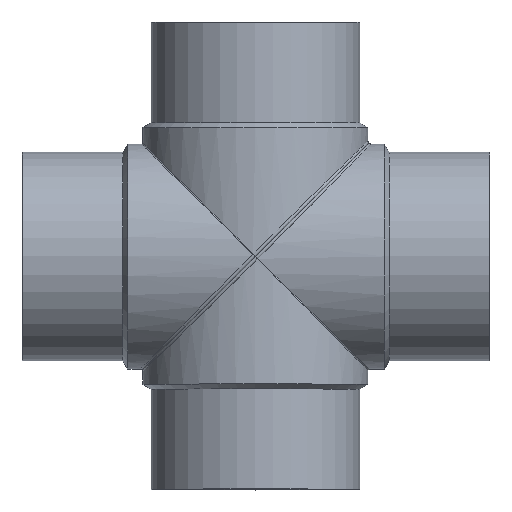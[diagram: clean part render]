
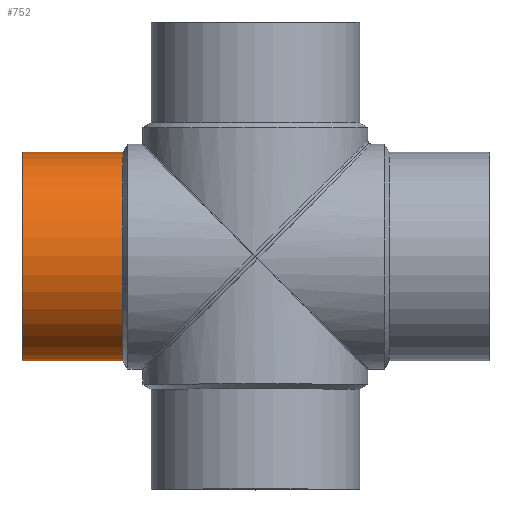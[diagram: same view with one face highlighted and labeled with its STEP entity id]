
A CAD part, top view. The second image highlights one B-rep face of the part: STEP entity #752.
In plain terms, the highlighted cylindrical face has radius 157.5 mm (diameter 315 mm), a full revolution.
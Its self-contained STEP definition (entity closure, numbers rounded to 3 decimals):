
#46=CIRCLE('',#816,157.5);
#47=CIRCLE('',#818,157.5);
#70=CYLINDRICAL_SURFACE('',#817,157.5);
#207=ORIENTED_EDGE('',*,*,#437,.T.);
#208=ORIENTED_EDGE('',*,*,#436,.T.);
#436=EDGE_CURVE('',#551,#551,#46,.T.);
#437=EDGE_CURVE('',#552,#552,#47,.T.);
#551=VERTEX_POINT('',#1281);
#552=VERTEX_POINT('',#1284);
#634=EDGE_LOOP('',(#207));
#635=EDGE_LOOP('',(#208));
#692=FACE_BOUND('',#634,.T.);
#693=FACE_BOUND('',#635,.T.);
#752=ADVANCED_FACE('',(#692,#693),#70,.T.);
#816=AXIS2_PLACEMENT_3D('',#1280,#890,#891);
#817=AXIS2_PLACEMENT_3D('',#1282,#892,#893);
#818=AXIS2_PLACEMENT_3D('',#1283,#894,#895);
#890=DIRECTION('',(-1.,0.,0.));
#891=DIRECTION('',(0.,0.,1.));
#892=DIRECTION('',(-1.,0.,0.));
#893=DIRECTION('',(0.,0.,1.));
#894=DIRECTION('',(1.,0.,0.));
#895=DIRECTION('',(0.,0.,-1.));
#1280=CARTESIAN_POINT('',(-200.,0.,0.));
#1281=CARTESIAN_POINT('',(-200.,0.,157.5));
#1282=CARTESIAN_POINT('',(-60.,0.,0.));
#1283=CARTESIAN_POINT('',(-351.,0.,0.));
#1284=CARTESIAN_POINT('',(-351.,0.,-157.5));
